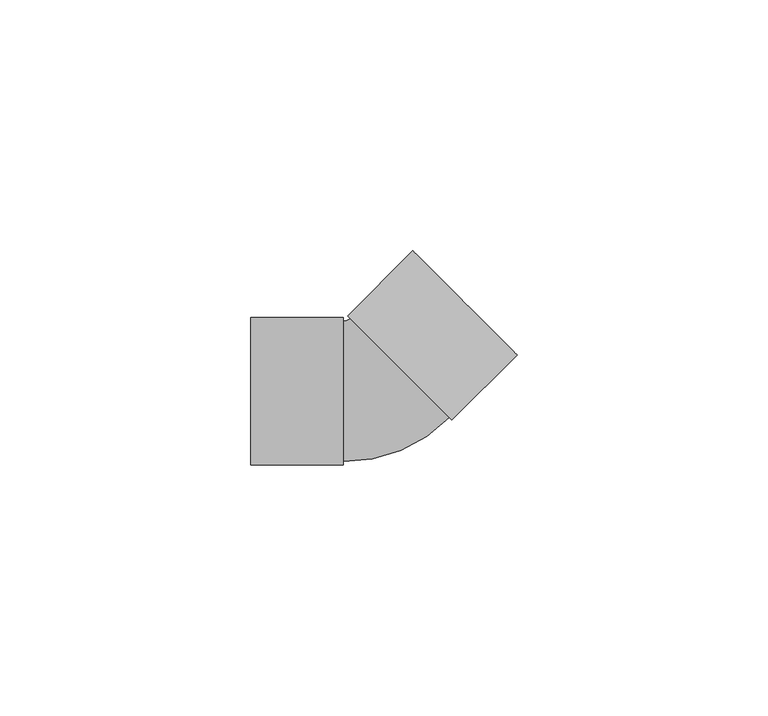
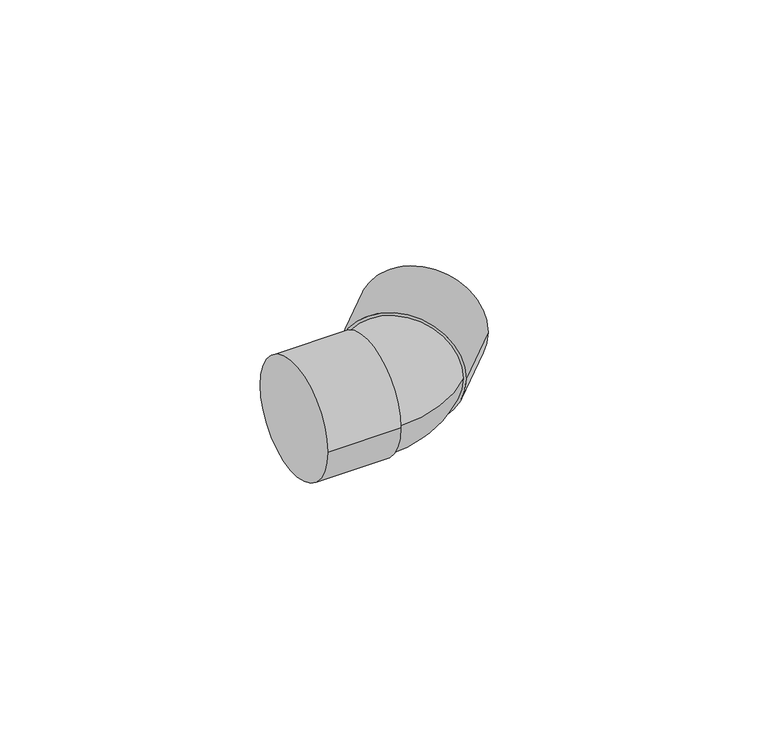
"""IFC4 building model written with IfcOpenShell, lengths in millimetres: pipe fitting geometry, Cotovelo - Soldado - CU : Padrão."""

from ifc_helpers import new_model, si_unit, point, frame, origin, place, context, project, spatial, circle_curve, ellipse_curve, trimmed, source, transform, mapped, element, save
from ifc_brep_helpers import plane_surface, cylinder_surface, revolved_surface, advanced_brep


def pipe_fitting_5f087375(model_context):
    return source(origin(), model_context, "Body", "AdvancedBrep", [
        advanced_brep(
        [(-5.2333044, 14.5656854, 0.0), (-6.5989899, 14.0, 0.0), (-6.5989899, -14.0, 0.0), (14.5656854, -5.2333044, 0.0), (-24.9989899, -14.7, 0.0), (-24.9989899, 14.7, 0.0), (-6.5989899, -14.7, 0.0), (-6.5989899, 14.7, 0.0), (7.2824856, 28.0714249, 0.0), (28.0714249, 7.2824856, 0.0), (-5.7282792, 15.0606602, 0.0), (15.0606602, -5.7282792, 0.0)],
        [
            (0, 1, circle_curve(frame((-6.5989899, 15.9313708, 0.0), z_axis=(0.0, 0.0, -1.0), x_axis=(0.0, -1.0, 0.0)), 1.9313708)),
            (1, 2, circle_curve(frame((-6.5989899, 0.0, 0.0), z_axis=(1.0, 0.0, 0.0), x_axis=(0.0, 1.0, 0.0)), 14.0)),
            (2, 3, circle_curve(frame((-6.5989899, 15.9313708, 0.0), z_axis=(0.0, 0.0, 1.0), x_axis=(0.0, -1.0, 0.0)), 29.9313708)),
            (3, 0, circle_curve(frame((4.6661905, 4.6661905, 0.0), z_axis=(-0.7071067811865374, -0.7071067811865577, 0.0), x_axis=(-0.7071067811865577, 0.7071067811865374, 0.0)), 14.0)),
            (0, 3, circle_curve(frame((4.6661905, 4.6661905, 0.0), z_axis=(-0.7071067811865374, -0.7071067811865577, 0.0), x_axis=(-0.7071067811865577, 0.7071067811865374, 0.0)), 14.0)),
            (2, 1, circle_curve(frame((-6.5989899, 0.0, 0.0), z_axis=(1.0, 0.0, 0.0), x_axis=(0.0, 1.0, 0.0)), 14.0)),
            (4, 5, circle_curve(frame((-24.9989899, 0.0, 0.0), z_axis=(-1.0, 0.0, 0.0), x_axis=(0.0, 1.0, 0.0)), 14.7)),
            (5, 4, circle_curve(frame((-24.9989899, 0.0, 0.0), z_axis=(-1.0, 0.0, 0.0), x_axis=(0.0, 1.0, 0.0)), 14.7)),
            (6, 7, circle_curve(frame((-6.5989899, 0.0, 0.0), z_axis=(1.0, 0.0, 0.0), x_axis=(0.0, 1.0, 0.0)), 14.7)),
            (7, 6, circle_curve(frame((-6.5989899, 0.0, 0.0), z_axis=(1.0, 0.0, 0.0), x_axis=(0.0, 1.0, 0.0)), 14.7)),
            (4, 6),
            (7, 5),
            (8, 9, circle_curve(frame((17.6769553, 17.6769553, 0.0), z_axis=(0.7071067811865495, 0.7071067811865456, 0.0), x_axis=(0.7071067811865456, -0.7071067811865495, 0.0)), 14.7)),
            (9, 8, circle_curve(frame((17.6769553, 17.6769553, 0.0), z_axis=(0.7071067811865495, 0.7071067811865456, 0.0), x_axis=(0.7071067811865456, -0.7071067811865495, 0.0)), 14.7)),
            (10, 11, circle_curve(frame((4.6661905, 4.6661905, 0.0), z_axis=(-0.7071067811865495, -0.7071067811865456, 0.0), x_axis=(0.7071067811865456, -0.7071067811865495, 0.0)), 14.7)),
            (11, 10, circle_curve(frame((4.6661905, 4.6661905, 0.0), z_axis=(-0.7071067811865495, -0.7071067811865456, 0.0), x_axis=(0.7071067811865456, -0.7071067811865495, 0.0)), 14.7)),
            (8, 10),
            (11, 9),
        ],
        [
            revolved_surface(trimmed(ellipse_curve(frame((-6.5989899, 0.0, 0.0), z_axis=(-1.0, 0.0, 0.0), x_axis=(0.0, 1.0, 0.0)), 14.0, 14.0), [point((-6.5989899, -14.0, 0.0))], [point((-6.5989899, 14.0, 0.0))], True, "CARTESIAN"), (-6.5989899, 15.9313708, 0.0), (0.0, 0.0, 1.0)),
            revolved_surface(trimmed(ellipse_curve(frame((-6.5989899, 0.0, 0.0), z_axis=(-1.0, 0.0, 0.0), x_axis=(0.0, 1.0, 0.0)), 14.0, 14.0), [point((-6.5989899, 14.0, 0.0))], [point((-6.5989899, -14.0, 0.0))], True, "CARTESIAN"), (-6.5989899, 15.9313708, 0.0), (0.0, 0.0, 1.0)),
            plane_surface(frame((-24.9989899, 0.0, 0.0), z_axis=(-1.0, 0.0, 0.0), x_axis=(0.0, 0.0, 1.0))),
            plane_surface(frame((-6.5989899, 0.0, 0.0), z_axis=(1.0, 0.0, 0.0), x_axis=(0.0, 0.0, 1.0))),
            cylinder_surface(frame((-24.9989899, 0.0, 0.0), z_axis=(-1.0, 0.0, 0.0), x_axis=(0.0, 1.0, 0.0)), 14.7),
            plane_surface(frame((17.6769553, 17.6769553, 0.0), z_axis=(0.7071067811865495, 0.7071067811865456, 0.0), x_axis=(0.0, 0.0, 1.0))),
            plane_surface(frame((4.6661905, 4.6661905, 0.0), z_axis=(-0.7071067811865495, -0.7071067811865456, 0.0), x_axis=(0.0, 0.0, 1.0))),
            cylinder_surface(frame((17.6769553, 17.6769553, 0.0), z_axis=(0.7071067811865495, 0.7071067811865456, 0.0), x_axis=(0.7071067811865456, -0.7071067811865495, 0.0)), 14.7),
        ],
        [
            (0, [[1, 2, 3, 4]]),
            (1, [[-1, 5, -3, 6]]),
            (2, [[7, 8]]),
            (3, [[9, 10], [-2, -6]]),
            (4, [[-7, 11, -10, 12]]),
            (4, [[-8, -12, -9, -11]]),
            (5, [[13, 14]]),
            (6, [[15, 16], [-4, -5]]),
            (7, [[-13, 17, -16, 18]]),
            (7, [[-14, -18, -15, -17]]),
        ],
    ),
    ])


if __name__ == "__main__":
    model = new_model("IFC4")
    model_context = context("Model", 3, world=origin())
    ifc_project = project(units=[si_unit("LENGTHUNIT", "METRE", prefix="MILLI")], contexts=[model_context])
    site = spatial("IfcSite", under=ifc_project)
    building = spatial("IfcBuilding", under=site)
    placement = place(None, origin())
    pipe_fitting_shape = pipe_fitting_5f087375(model_context)
    element("IfcPipeFitting", 1, ObjectType="Cotovelo - Soldado - CU : Padrão", at=placement, inside=building, context=model_context, shape_type="MappedRepresentation", body=[
        mapped(pipe_fitting_shape, transform((0.0, 0.0, 0.0), x_axis=(1.0, 0.0, 0.0), y_axis=(0.0, 1.0, 0.0), z_axis=(0.0, 0.0, 1.0))),
    ])
    save(model, "model.ifc")
